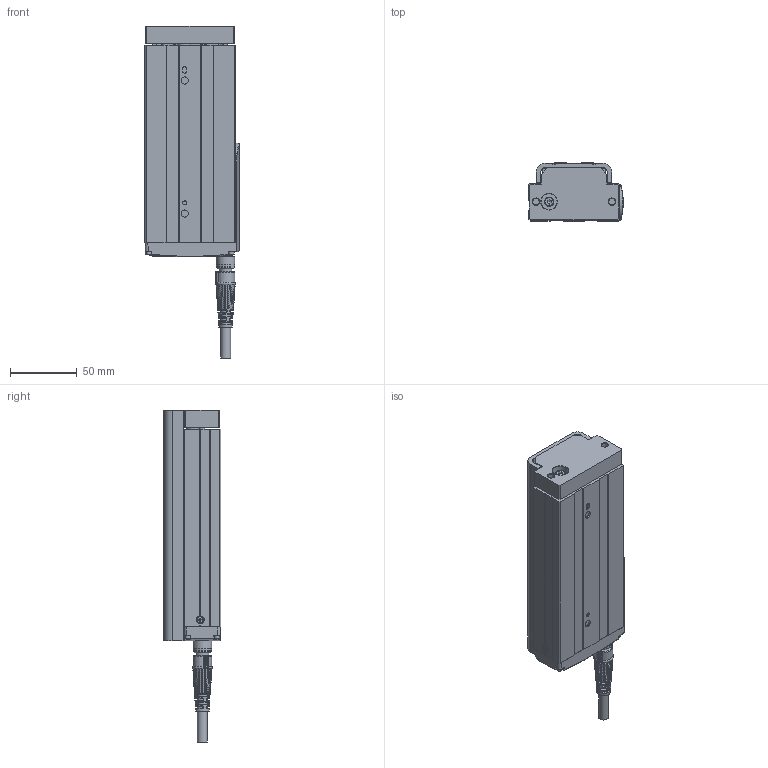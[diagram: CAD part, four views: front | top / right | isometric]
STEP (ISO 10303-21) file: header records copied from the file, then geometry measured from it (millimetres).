
FILE_DESCRIPTION(/* description */ ('STEP AP203'),/* implementation_level */ '2;1');
FILE_NAME(/* name */ 'D:\暫\2025.02.06 CSG 3D\CSG25\CSG25-S100.stp',/* time_stamp */ '2025-02-08T10:07:38+08:00',/* author */ ('T10033'),/* organization */ (''),/* preprocessor_version */ 'ST-DEVELOPER v18.1',/* originating_system */ 'Autodesk Inventor 2020',/* authorisation */ '');
FILE_SCHEMA (('CONFIG_CONTROL_DESIGN'));
Products named in the file (17): CSG25-50行程-180接頭-完整組合; countersunk flat head cross recess screw_iso_ISO 7046-1 - M2.5 x 4 - 
Z - 4N; ©T©wªO-·¥­­¾×ª
O4-M2¤ú; socket head cap screw_iso_ISO 4762 M2.5 x 6 - 6N; socket head cap screw_iso_ISO 4762 M2.5 x 8 - 8N; ¶ì½¦ºÝ»-L¼Ë¦¡
(TOYO); socket head cap screw_iso_ISO 4762 M2 x 12 - 12N; M12 -14PIN  ªOºÝ-²Ä¤@ºØ
³W®æ; CSG25-50¥»Åé3ª©-ªo¤Õ
½Õ¾ã¨¤«×; CSG25-Carriage-newtype; Solid1-2; M12-14PIN 線端180度接頭-05中繼線_
MIR; socket head cap screw_iso_ISO 4762 M2.5 x 5 - 5N; 12003-000221-­×§ï; 22024-000496; CNS 3932 - M 4 x 0.7 x 12; CNS 4558 - M5 x 0.8 x 12
Assembly tree (28 placements, depth 2):
  CSG25-50行程-180接頭-完整組合
    socket head cap screw_iso_ISO 4762 M2.5 x 8 - 8N  x8
    countersunk flat head cross recess screw_iso_ISO 7046-1 - M2.5 x 4 - 
Z - 4N
    ©T©wªO-·¥­­¾×ª
O4-M2¤ú
    socket head cap screw_iso_ISO 4762 M2.5 x 6 - 6N  x2
    ¶ì½¦ºÝ»-L¼Ë¦¡
(TOYO)
    socket head cap screw_iso_ISO 4762 M2 x 12 - 12N  x4
    M12 -14PIN  ªOºÝ-²Ä¤@ºØ
³W®æ
    CSG25-50¥»Åé3ª©-ªo¤Õ
½Õ¾ã¨¤«×
    CSG25-Carriage-newtype
    Solid1-2
    M12-14PIN 線端180度接頭-05中繼線_
MIR
    socket head cap screw_iso_ISO 4762 M2.5 x 5 - 5N
    12003-000221-­×§ï
    22024-000496
    CNS 3932 - M 4 x 0.7 x 12
    CNS 4558 - M5 x 0.8 x 12  x2
Bounding box: 71 x 43.5 x 249.6 mm (x, y, z)
Volume: 412523.2 mm3; surface area: 99744.2 mm2
Topology: 45 solids, 49 shells, 2826 faces, 7791 edges, 5186 vertices
Faces by surface type: plane 1346, bspline 656, cylinder 449, cone 286, torus 85, sphere 4
Full cylindrical faces by diameter (mm): 0.6 x14, 0.65 x14, 0.8 x2, 1 x14, 1.6 x4, 2 x6, 2.05 x3, 2.5 x12, 2.9 x2, 3 x3, 3.8 x4, 4 x1, 4.134 x8, 4.5 x11, 4.7 x1, 5 x5, 5.3 x2, 5.4 x4, 5.5 x4, 6 x3, 7 x1, 7.5 x1, 8 x1, 8.9 x1, 9 x12, 9.5 x2, 9.6 x1, 10 x6, 10.4 x2, 10.5 x2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
Entity records: 99943 total; most frequent: CARTESIAN_POINT 32934, ORIENTED_EDGE 14354, DIRECTION 12703, EDGE_CURVE 7177, VERTEX_POINT 4800, AXIS2_PLACEMENT_3D 4485, LINE 3733, VECTOR 3733
